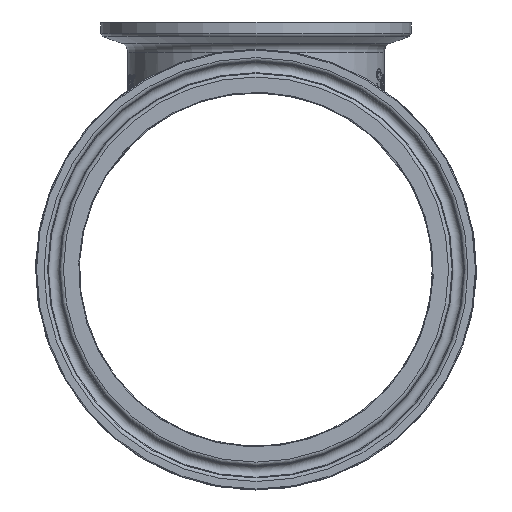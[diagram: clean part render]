
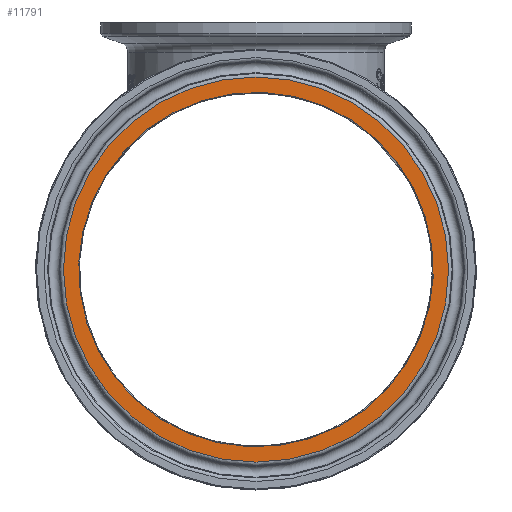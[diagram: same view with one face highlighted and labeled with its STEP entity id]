
A CAD part, left-side view. The second image highlights one B-rep face of the part: STEP entity #11791.
In plain terms, the highlighted planar face has unit normal (-1, 0, 0).
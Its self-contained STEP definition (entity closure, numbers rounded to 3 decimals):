
#290=PLANE('',#12420);
#1594=CIRCLE('',#12421,36.6);
#1595=CIRCLE('',#12422,39.747);
#2083=ORIENTED_EDGE('',*,*,#4539,.T.);
#2084=ORIENTED_EDGE('',*,*,#4540,.T.);
#4539=EDGE_CURVE('',#5776,#5776,#1594,.T.);
#4540=EDGE_CURVE('',#5777,#5777,#1595,.T.);
#5776=VERTEX_POINT('',#16353);
#5777=VERTEX_POINT('',#16355);
#6862=EDGE_LOOP('',(#2083));
#6863=EDGE_LOOP('',(#2084));
#7510=FACE_BOUND('',#6862,.T.);
#7511=FACE_BOUND('',#6863,.T.);
#11791=ADVANCED_FACE('',(#7510,#7511),#290,.F.);
#12420=AXIS2_PLACEMENT_3D('',#16351,#13120,#13121);
#12421=AXIS2_PLACEMENT_3D('',#16352,#13122,#13123);
#12422=AXIS2_PLACEMENT_3D('',#16354,#13124,#13125);
#13120=DIRECTION('',(1.,0.,0.));
#13121=DIRECTION('',(0.,1.,0.));
#13122=DIRECTION('',(1.,0.,0.));
#13123=DIRECTION('',(0.,0.924,0.382));
#13124=DIRECTION('',(-1.,0.,0.));
#13125=DIRECTION('',(0.,-1.,0.));
#16351=CARTESIAN_POINT('',(-112.151,-36.474,0.));
#16352=CARTESIAN_POINT('',(-112.151,0.,0.));
#16353=CARTESIAN_POINT('',(-112.151,33.827,13.976));
#16354=CARTESIAN_POINT('',(-112.151,0.,0.));
#16355=CARTESIAN_POINT('',(-112.151,-39.747,0.));
